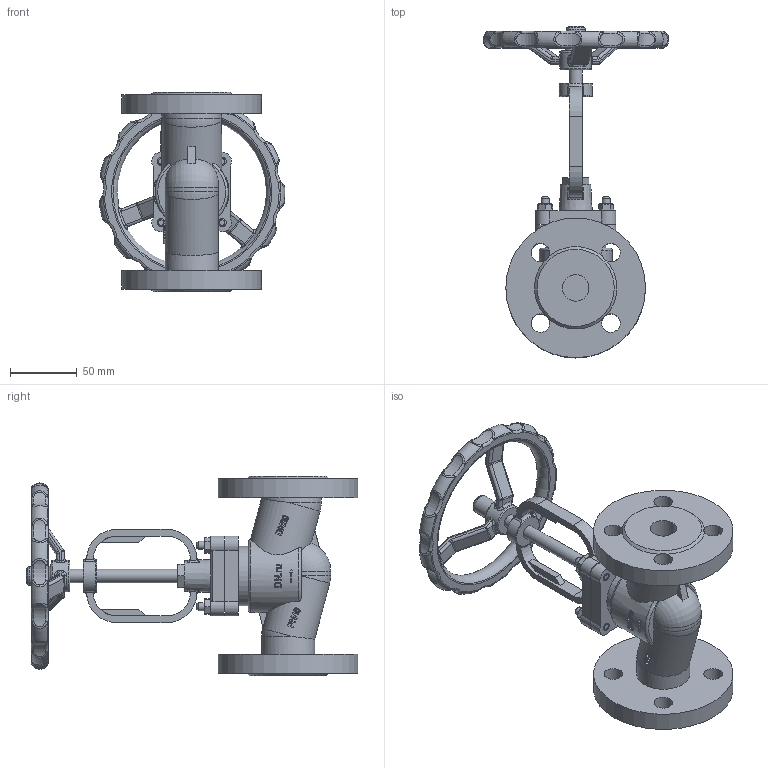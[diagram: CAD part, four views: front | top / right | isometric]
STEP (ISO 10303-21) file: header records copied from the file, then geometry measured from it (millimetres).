
FILE_DESCRIPTION(('STEP AP242'), '1');
FILE_NAME('VSO2130M-F-S 孰囡囗 玎镱痦 DN.ru 捏20 畜40', '2026-04-27T21:24:51', ('DN.ru'), (''), 'C3D Converter', 'C3D Toolkit', '');
FILE_SCHEMA(('AP242_MANAGED_MODEL_BASED_3D_ENGINEERING_MIM_LF { 1 0 10303 442 1 1 4 }'));
Length unit declared in the file: millimetre
Products named in the file (1): VSO2130M-F-S
Bounding box: 139.7 x 249.5 x 150 mm (x, y, z)
Volume: 635814.1 mm3; surface area: 119408 mm2
Topology: 1 solids, 1 shells, 890 faces, 2269 edges, 1413 vertices
Faces by surface type: plane 250, extrusion 217, cylinder 154, torus 109, bspline 76, sphere 64, cone 20
Full cylindrical faces by diameter (mm): 6 x12, 10 x3, 14 x8, 14.25 x1, 20 x2, 23.75 x1, 25 x1, 40 x2, 45 x3, 105 x2
Entity records: 66405 total; most frequent: CARTESIAN_POINT 39879, ORIENTED_EDGE 4356, DIRECTION 3246, EDGE_CURVE 2178, VERTEX_POINT 1403, AXIS2_PLACEMENT_3D 1190, EDGE_LOOP 1031, B_SPLINE_CURVE_WITH_KNOTS 996
